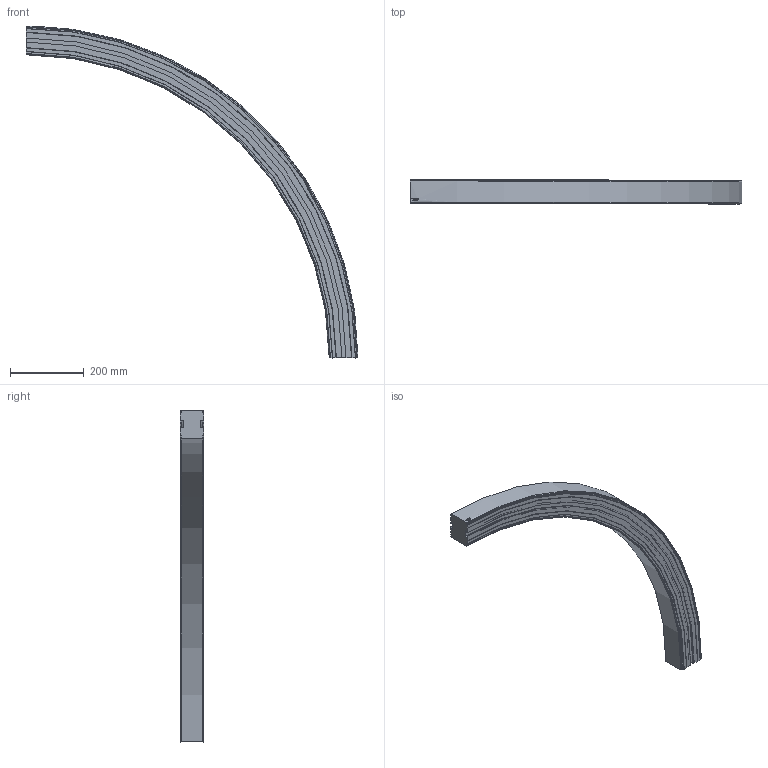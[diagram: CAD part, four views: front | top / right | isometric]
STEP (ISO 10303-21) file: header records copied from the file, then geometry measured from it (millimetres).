
FILE_DESCRIPTION((''),'2;1');
FILE_NAME('C:\Vault Klient\Projekt\Koncept konstruktion\Serie 620 Balk\620-5690_DOWN.stp','2009-11-27T07:34:26',('Mathias'),(''),'Autodesk Inventor 2010','Autodesk Inventor 2010','');
FILE_SCHEMA(('AUTOMOTIVE_DESIGN { 1 0 10303 214 1 1 1 1 }'));
Length unit declared in the file: millimetre
Products named in the file (1): 620-5690_DOWN
Bounding box: 898 x 64 x 898 mm (x, y, z)
Volume: 6274961.5 mm3; surface area: 495877.6 mm2
Topology: 1 solids, 1 shells, 93 faces, 258 edges, 172 vertices
Faces by surface type: plane 40, cylinder 23, bspline 14, cone 12, torus 4
Entity records: 3454 total; most frequent: CARTESIAN_POINT 1019, ORIENTED_EDGE 516, DIRECTION 472, EDGE_CURVE 258, VERTEX_POINT 172, AXIS2_PLACEMENT_3D 162, VECTOR 148, LINE 148
